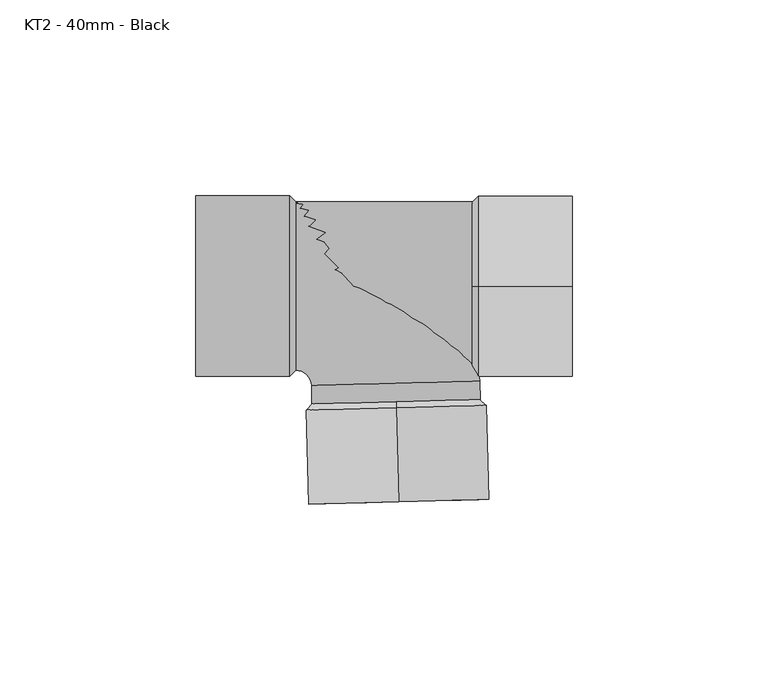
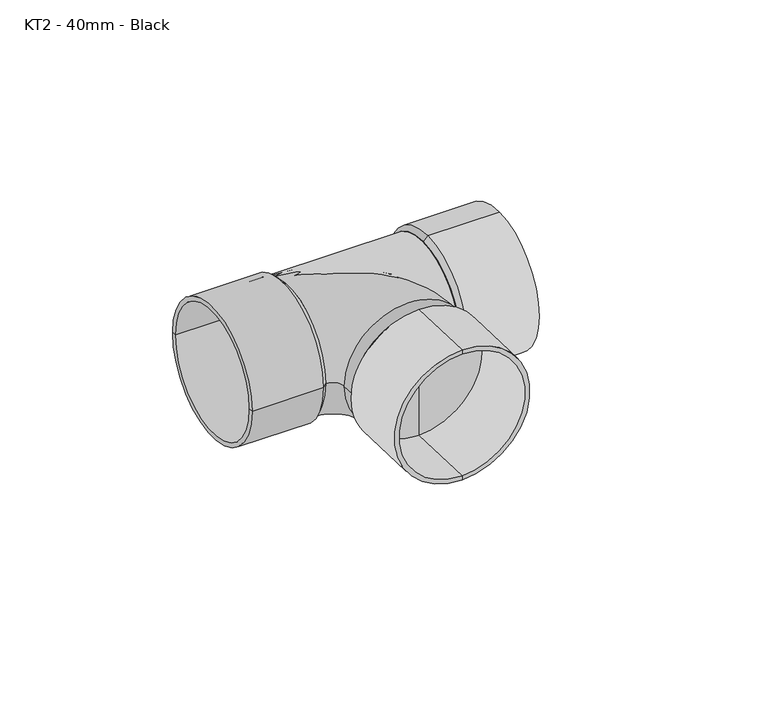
"""IFC4 building model written with IfcOpenShell, lengths in millimetres: pipe fitting geometry, MarleyPlumbingAndDrainage_PipeFitting_EqualBranchTee88.5 : KT2 - 40mm - Black."""

from ifc_helpers import new_model, si_unit, point, frame, origin, place, context, project, spatial, polyline, circle_curve, ellipse_curve, trimmed, source, transform, mapped, element, save
from ifc_brep_helpers import plane_surface, cylinder_surface, revolved_surface, advanced_brep


def kt2_40mm_black_f508cd0c(model_context):
    return source(origin(), model_context, "Body", "AdvancedBrep", [
        advanced_brep(
        [(45.6589998, 0.0, 21.5), (45.6589998, 0.0, -21.5), (45.6589998, 0.0, -23.0), (45.6589998, 0.0, 23.0), (21.6589998, 0.0, 21.5), (21.6589998, 0.0, -21.5), (21.6589998, 0.0, 0.0), (20.1589998, 0.0, 21.5), (20.1589998, 0.0, -21.5), (20.1589998, 0.0, 0.0), (21.6589998, 0.0, 23.0), (21.6589998, 0.0, -23.0)],
        [
            (0, 1, circle_curve(frame((45.6589998, 0.0, 0.0), z_axis=(-1.0, 0.0, 0.0), x_axis=(0.0, 0.0, -1.0)), 21.5)),
            (1, 2),
            (2, 3, circle_curve(frame((45.6589998, 0.0, 0.0), z_axis=(1.0, 0.0, 0.0), x_axis=(0.0, 0.0, -1.0)), 23.0)),
            (3, 0),
            (1, 0, circle_curve(frame((45.6589998, 0.0, 0.0), z_axis=(-1.0, 0.0, 0.0), x_axis=(0.0, 0.0, -1.0)), 21.5)),
            (3, 2, circle_curve(frame((45.6589998, 0.0, 0.0), z_axis=(1.0, 0.0, 0.0), x_axis=(0.0, 0.0, -1.0)), 23.0)),
            (4, 5, circle_curve(frame((21.6589998, 0.0, 0.0), z_axis=(-1.0, 0.0, 0.0), x_axis=(0.0, 0.0, -1.0)), 21.5)),
            (5, 1),
            (0, 4),
            (5, 4, circle_curve(frame((21.6589998, 0.0, 0.0), z_axis=(-1.0, 0.0, 0.0), x_axis=(0.0, 0.0, -1.0)), 21.5)),
            (6, 5),
            (4, 6),
            (7, 8, circle_curve(frame((20.1589998, 0.0, 0.0), z_axis=(-1.0, 0.0, 0.0), x_axis=(0.0, 0.0, -1.0)), 21.5)),
            (8, 9),
            (9, 7),
            (8, 7, circle_curve(frame((20.1589998, 0.0, 0.0), z_axis=(-1.0, 0.0, 0.0), x_axis=(0.0, 0.0, -1.0)), 21.5)),
            (10, 11, circle_curve(frame((21.6589998, 0.0, 0.0), z_axis=(-1.0, 0.0, 0.0), x_axis=(0.0, 0.0, -1.0)), 23.0)),
            (11, 8),
            (7, 10),
            (11, 10, circle_curve(frame((21.6589998, 0.0, 0.0), z_axis=(-1.0, 0.0, 0.0), x_axis=(0.0, 0.0, -1.0)), 23.0)),
            (2, 11),
            (10, 3),
        ],
        [
            plane_surface(frame((45.6589998, 0.0, 0.0), z_axis=(1.0, 0.0, 0.0), x_axis=(0.0, 0.0, -1.0))),
            revolved_surface(polyline([(45.6589998, 0.0, -21.5), (21.658999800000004, 0.0, -21.5)]), (83.6420398, 0.0, 0.0), (1.0, 0.0, 0.0)),
            plane_surface(frame((21.6589998, 0.0, 0.0), z_axis=(1.0, 0.0, 0.0), x_axis=(0.0, 0.0, -1.0))),
            plane_surface(frame((20.1589998, 0.0, 0.0), z_axis=(-1.0, 0.0, 0.0), x_axis=(0.0, 0.0, -1.0))),
            revolved_surface(polyline([(20.1589998, 0.0, -21.5), (21.6589998, 0.0, -23.0)]), (83.6420398, 0.0, 0.0), (1.0, 0.0, 0.0)),
            cylinder_surface(frame((83.6420398, 0.0, 0.0), z_axis=(1.0, 0.0, 0.0), x_axis=(0.0, 0.0, -1.0)), 23.0),
        ],
        [
            (0, [[1, 2, 3, 4]]),
            (0, [[5, -4, 6, -2]]),
            (1, [[7, 8, -1, 9]]),
            (1, [[10, -9, -5, -8]]),
            (2, [[11, -7, 12]]),
            (2, [[-12, -10, -11]]),
            (3, [[13, 14, 15]]),
            (3, [[16, -15, -14]]),
            (4, [[17, 18, -13, 19]]),
            (4, [[20, -19, -16, -18]]),
            (5, [[-3, 21, -17, 22]]),
            (5, [[-6, -22, -20, -21]]),
        ],
    ),
        advanced_brep(
        [(-50.3410002, -21.5, 0.0), (-50.3410002, 21.5, 0.0), (-50.3410002, 23.0, 0.0), (-50.3410002, -23.0, 0.0), (-26.3410002, -21.5, 0.0), (-26.3410002, 21.5, 0.0), (-26.3410002, 0.0, 0.0), (-24.8410002, -21.5, 0.0), (-24.8410002, 21.5, 0.0), (-24.8410002, 0.0, 0.0), (-26.3410002, -23.0, 0.0), (-26.3410002, 23.0, 0.0)],
        [
            (0, 1, circle_curve(frame((-50.3410002, 0.0, 0.0), z_axis=(1.0, 0.0, 0.0), x_axis=(0.0, 1.0, 0.0)), 21.5)),
            (1, 2),
            (2, 3, circle_curve(frame((-50.3410002, 0.0, 0.0), z_axis=(-1.0, 0.0, 0.0), x_axis=(0.0, 1.0, 0.0)), 23.0)),
            (3, 0),
            (1, 0, circle_curve(frame((-50.3410002, 0.0, 0.0), z_axis=(1.0, 0.0, 0.0), x_axis=(0.0, 1.0, 0.0)), 21.5)),
            (3, 2, circle_curve(frame((-50.3410002, 0.0, 0.0), z_axis=(-1.0, 0.0, 0.0), x_axis=(0.0, 1.0, 0.0)), 23.0)),
            (4, 5, circle_curve(frame((-26.3410002, 0.0, 0.0), z_axis=(1.0, 0.0, 0.0), x_axis=(0.0, 1.0, 0.0)), 21.5)),
            (5, 1),
            (0, 4),
            (5, 4, circle_curve(frame((-26.3410002, 0.0, 0.0), z_axis=(1.0, 0.0, 0.0), x_axis=(0.0, 1.0, 0.0)), 21.5)),
            (6, 5),
            (4, 6),
            (7, 8, circle_curve(frame((-24.8410002, 0.0, 0.0), z_axis=(1.0, 0.0, 0.0), x_axis=(0.0, 1.0, 0.0)), 21.5)),
            (8, 9),
            (9, 7),
            (8, 7, circle_curve(frame((-24.8410002, 0.0, 0.0), z_axis=(1.0, 0.0, 0.0), x_axis=(0.0, 1.0, 0.0)), 21.5)),
            (10, 11, circle_curve(frame((-26.3410002, 0.0, 0.0), z_axis=(1.0, 0.0, 0.0), x_axis=(0.0, 1.0, 0.0)), 23.0)),
            (11, 8),
            (7, 10),
            (11, 10, circle_curve(frame((-26.3410002, 0.0, 0.0), z_axis=(1.0, 0.0, 0.0), x_axis=(0.0, 1.0, 0.0)), 23.0)),
            (2, 11),
            (10, 3),
        ],
        [
            plane_surface(frame((-50.3410002, 0.0, 0.0), z_axis=(-1.0, 0.0, 0.0), x_axis=(0.0, 1.0, 0.0))),
            revolved_surface(polyline([(-50.3410002, 21.5, 0.0), (-26.341000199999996, 21.5, 0.0)]), (-88.3240402, 0.0, 0.0), (-1.0, 0.0, 0.0)),
            plane_surface(frame((-26.3410002, 0.0, 0.0), z_axis=(-1.0, 0.0, 0.0), x_axis=(0.0, 1.0, 0.0))),
            plane_surface(frame((-24.8410002, 0.0, 0.0), z_axis=(1.0, 0.0, 0.0), x_axis=(0.0, 1.0, 0.0))),
            revolved_surface(polyline([(-24.8410002, 21.5, 0.0), (-26.3410002, 23.0, 0.0)]), (-88.3240402, 0.0, 0.0), (-1.0, 0.0, 0.0)),
            cylinder_surface(frame((-88.3240402, 0.0, 0.0), z_axis=(-1.0, 0.0, 0.0), x_axis=(0.0, 1.0, 0.0)), 23.0),
        ],
        [
            (0, [[1, 2, 3, 4]]),
            (0, [[5, -4, 6, -2]]),
            (1, [[7, 8, -1, 9]]),
            (1, [[10, -9, -5, -8]]),
            (2, [[11, -7, 12]]),
            (2, [[-12, -10, -11]]),
            (3, [[13, 14, 15]]),
            (3, [[16, -15, -14]]),
            (4, [[17, 18, -13, 19]]),
            (4, [[20, -19, -16, -18]]),
            (5, [[-3, 21, -17, 22]]),
            (5, [[-6, -22, -20, -21]]),
        ],
    ),
        advanced_brep(
        [(1.4408054, -55.022139, -21.5), (1.4408054, -55.022139, 21.5), (1.4408054, -55.022139, 23.0), (1.4408054, -55.022139, -23.0), (0.8125587, -31.0303632, -21.5), (0.8125587, -31.0303632, 21.5), (0.8125587, -31.0303632, 0.0), (0.7732932, -29.5308772, -21.5), (0.7732932, -29.5308772, 21.5), (0.7732932, -29.5308772, 0.0), (0.8125587, -31.0303632, -23.0), (0.8125587, -31.0303632, 23.0)],
        [
            (0, 1, circle_curve(frame((1.4408054, -55.022139, 0.0), z_axis=(-0.026176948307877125, 0.9996573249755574, 0.0), x_axis=(0.0, 0.0, 1.0)), 21.5)),
            (1, 2),
            (2, 3, circle_curve(frame((1.4408054, -55.022139, 0.0), z_axis=(0.026176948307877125, -0.9996573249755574, 0.0), x_axis=(0.0, 0.0, 1.0)), 23.0)),
            (3, 0),
            (1, 0, circle_curve(frame((1.4408054, -55.022139, 0.0), z_axis=(-0.026176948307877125, 0.9996573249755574, 0.0), x_axis=(0.0, 0.0, 1.0)), 21.5)),
            (3, 2, circle_curve(frame((1.4408054, -55.022139, 0.0), z_axis=(0.026176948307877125, -0.9996573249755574, 0.0), x_axis=(0.0, 0.0, 1.0)), 23.0)),
            (4, 5, circle_curve(frame((0.8125587, -31.0303632, 0.0), z_axis=(-0.026176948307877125, 0.9996573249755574, 0.0), x_axis=(0.0, 0.0, 1.0)), 21.5)),
            (5, 1),
            (0, 4),
            (5, 4, circle_curve(frame((0.8125587, -31.0303632, 0.0), z_axis=(-0.026176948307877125, 0.9996573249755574, 0.0), x_axis=(0.0, 0.0, 1.0)), 21.5)),
            (6, 5),
            (4, 6),
            (7, 8, circle_curve(frame((0.7732932, -29.5308772, 0.0), z_axis=(-0.026176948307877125, 0.9996573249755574, 0.0), x_axis=(0.0, 0.0, 1.0)), 21.5)),
            (8, 9),
            (9, 7),
            (8, 7, circle_curve(frame((0.7732932, -29.5308772, 0.0), z_axis=(-0.026176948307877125, 0.9996573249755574, 0.0), x_axis=(0.0, 0.0, 1.0)), 21.5)),
            (10, 11, circle_curve(frame((0.8125587, -31.0303632, 0.0), z_axis=(-0.026176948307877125, 0.9996573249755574, 0.0), x_axis=(0.0, 0.0, 1.0)), 23.0)),
            (11, 8),
            (7, 10),
            (11, 10, circle_curve(frame((0.8125587, -31.0303632, 0.0), z_axis=(-0.026176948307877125, 0.9996573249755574, 0.0), x_axis=(0.0, 0.0, 1.0)), 23.0)),
            (2, 11),
            (10, 3),
        ],
        [
            plane_surface(frame((1.4408054, -55.022139, 0.0), z_axis=(0.02617694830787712, -0.9996573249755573, 0.0), x_axis=(0.0, 0.0, 1.0))),
            revolved_surface(polyline([(1.440805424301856, -55.02213899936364, 21.5), (0.8125586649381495, -31.030363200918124, 21.5)]), (2.4350855, -92.9921632, 0.0), (0.026176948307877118, -0.9996573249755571, 0.0)),
            plane_surface(frame((0.8125587, -31.0303632, 0.0), z_axis=(0.02617694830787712, -0.9996573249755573, 0.0), x_axis=(0.0, 0.0, 1.0))),
            plane_surface(frame((0.7732932, -29.5308772, 0.0), z_axis=(-0.02617694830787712, 0.9996573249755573, 0.0), x_axis=(0.0, 0.0, 1.0))),
            revolved_surface(polyline([(0.7732932, -29.5308772, 21.5), (0.8125587, -31.0303632, 23.0)]), (2.4350855, -92.9921632, 0.0), (0.026176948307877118, -0.9996573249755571, 0.0)),
            cylinder_surface(frame((2.4350855, -92.9921632, 0.0), z_axis=(0.026176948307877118, -0.9996573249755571, 0.0), x_axis=(0.0, 0.0, 1.0)), 23.0),
        ],
        [
            (0, [[1, 2, 3, 4]]),
            (0, [[5, -4, 6, -2]]),
            (1, [[7, 8, -1, 9]]),
            (1, [[10, -9, -5, -8]]),
            (2, [[11, -7, 12]]),
            (2, [[-12, -10, -11]]),
            (3, [[13, 14, 15]]),
            (3, [[16, -15, -14]]),
            (4, [[17, 18, -13, 19]]),
            (4, [[20, -19, -16, -18]]),
            (5, [[-3, 21, -17, 22]]),
            (5, [[-6, -22, -20, -21]]),
        ],
    ),
        advanced_brep(
        [(-20.7193393, -30.0936816, 0.0), (22.2659257, -28.9680729, 0.0), (22.1428941, -24.2696834, 0.0), (-20.8423709, -25.3952922, 0.0), (-24.8410002, -21.5, 0.0), (-24.8410002, 21.5, 0.0)],
        [
            (0, 1, circle_curve(frame((0.7732932, -29.5308772, 0.0), z_axis=(0.026176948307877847, -0.9996573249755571, 0.0), x_axis=(0.9996573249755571, 0.026176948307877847, 0.0)), 21.5)),
            (1, 0, circle_curve(frame((0.7732932, -29.5308772, 0.0), z_axis=(0.026176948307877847, -0.9996573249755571, 0.0), x_axis=(0.9996573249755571, 0.026176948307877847, 0.0)), 21.5)),
            (2, 3, circle_curve(frame((0.6502616, -24.8324878, 0.0), z_axis=(0.026176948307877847, -0.9996573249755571, 0.0), x_axis=(0.9996573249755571, 0.026176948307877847, 0.0)), 21.5)),
            (3, 0),
            (1, 2),
            (3, 2, circle_curve(frame((0.6502616, -24.8324878, 0.0), z_axis=(0.026176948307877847, -0.9996573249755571, 0.0), x_axis=(0.9996573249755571, 0.026176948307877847, 0.0)), 21.5)),
            (4, 5, circle_curve(frame((-24.8410002, 0.0, 0.0), z_axis=(-1.0, 0.0, 0.0), x_axis=(0.0, 1.0, 0.0)), 21.5)),
            (5, 4, circle_curve(frame((-24.8410002, 0.0, 0.0), z_axis=(-1.0, 0.0, 0.0), x_axis=(0.0, 1.0, 0.0)), 21.5)),
            (2, 5, circle_curve(frame((-24.8410002, -25.5, 0.0), z_axis=(0.0, 0.0, 1.0), x_axis=(0.0, 1.0, 0.0)), 47.0)),
            (4, 3, circle_curve(frame((-24.8410002, -25.5, 0.0), z_axis=(0.0, 0.0, -1.0), x_axis=(0.0, 1.0, 0.0)), 4.0)),
        ],
        [
            plane_surface(frame((0.7732932, -29.5308772, 0.0), z_axis=(0.02617694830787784, -0.9996573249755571, 0.0), x_axis=(0.0, 0.0, 1.0))),
            cylinder_surface(frame((0.6502616, -24.8324878, 0.0), z_axis=(-0.026176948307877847, 0.9996573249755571, 0.0), x_axis=(0.9996573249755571, 0.026176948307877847, 0.0)), 21.5),
            plane_surface(frame((-24.8410002, 0.0, 0.0), z_axis=(-1.0, 0.0, 0.0), x_axis=(0.0, 0.0, 1.0))),
            revolved_surface(trimmed(ellipse_curve(frame((-24.8410002, 0.0, 0.0), z_axis=(-1.0, 0.0, 0.0), x_axis=(0.0, 1.0, 0.0)), 21.5, 21.5), [point((-24.8410002, -21.5, 0.0))], [point((-24.8410002, 21.5, 0.0))], True, "CARTESIAN"), (-24.8410002, -25.5, 0.0), (0.0, 0.0, -1.0)),
            revolved_surface(trimmed(ellipse_curve(frame((-24.8410002, 0.0, 0.0), z_axis=(-1.0, 0.0, 0.0), x_axis=(0.0, 1.0, 0.0)), 21.5, 21.5), [point((-24.8410002, 21.5, 0.0))], [point((-24.8410002, -21.5, 0.0))], True, "CARTESIAN"), (-24.8410002, -25.5, 0.0), (0.0, 0.0, -1.0)),
        ],
        [
            (0, [[1, 2]]),
            (1, [[3, 4, -2, 5]]),
            (1, [[6, -5, -1, -4]]),
            (2, [[7, 8]]),
            (3, [[9, -7, 10, -3]]),
            (4, [[-10, -8, -9, -6]]),
        ],
    ),
        advanced_brep(
        [(-24.8410002, 0.0, 0.0), (-24.8410002, 21.5, 0.0), (-24.8410002, -21.5, 0.0), (20.1589998, -21.5, 0.0), (20.1589998, 21.5, 0.0), (20.1589998, 0.0, 0.0)],
        [
            (0, 1),
            (1, 2, circle_curve(frame((-24.8410002, 0.0, 0.0), z_axis=(-1.0, 0.0, 0.0), x_axis=(0.0, 1.0, 0.0)), 21.5)),
            (2, 0),
            (2, 1, circle_curve(frame((-24.8410002, 0.0, 0.0), z_axis=(-1.0, 0.0, 0.0), x_axis=(0.0, 1.0, 0.0)), 21.5)),
            (3, 4, circle_curve(frame((20.1589998, 0.0, 0.0), z_axis=(1.0, 0.0, 0.0), x_axis=(0.0, 1.0, 0.0)), 21.5)),
            (4, 5),
            (5, 3),
            (4, 3, circle_curve(frame((20.1589998, 0.0, 0.0), z_axis=(1.0, 0.0, 0.0), x_axis=(0.0, 1.0, 0.0)), 21.5)),
            (1, 4),
            (3, 2),
        ],
        [
            plane_surface(frame((-24.8410002, 0.0, 0.0), z_axis=(-1.0, 0.0, 0.0), x_axis=(0.0, 1.0, 0.0))),
            plane_surface(frame((20.1589998, 0.0, 0.0), z_axis=(1.0, 0.0, 0.0), x_axis=(0.0, 1.0, 0.0))),
            cylinder_surface(frame((2000.6589998, 0.0, 0.0), z_axis=(-1.0, 0.0, 0.0), x_axis=(0.0, 1.0, 0.0)), 21.5),
        ],
        [
            (0, [[1, 2, 3]]),
            (0, [[-3, 4, -1]]),
            (1, [[5, 6, 7]]),
            (1, [[8, -7, -6]]),
            (2, [[-2, 9, -5, 10]]),
            (2, [[-4, -10, -8, -9]]),
        ],
    ),
    ])


if __name__ == "__main__":
    model = new_model("IFC4")
    model_context = context("Model", 3, world=origin())
    ifc_project = project(units=[si_unit("LENGTHUNIT", "METRE", prefix="MILLI")], contexts=[model_context])
    site = spatial("IfcSite", under=ifc_project)
    building = spatial("IfcBuilding", under=site)
    placement = place(None, origin())
    kt2_40mm_black_shape = kt2_40mm_black_f508cd0c(model_context)
    element("IfcPipeFitting", 1, ObjectType="MarleyPlumbingAndDrainage_PipeFitting_EqualBranchTee88.5 : KT2 - 40mm - Black", at=placement, inside=building, context=model_context, shape_type="MappedRepresentation", body=[
        mapped(kt2_40mm_black_shape, transform((0.0, 0.0, 0.0), x_axis=(1.0, 0.0, 0.0), y_axis=(0.0, 1.0, 0.0), z_axis=(0.0, 0.0, 1.0))),
    ])
    save(model, "model.ifc")
